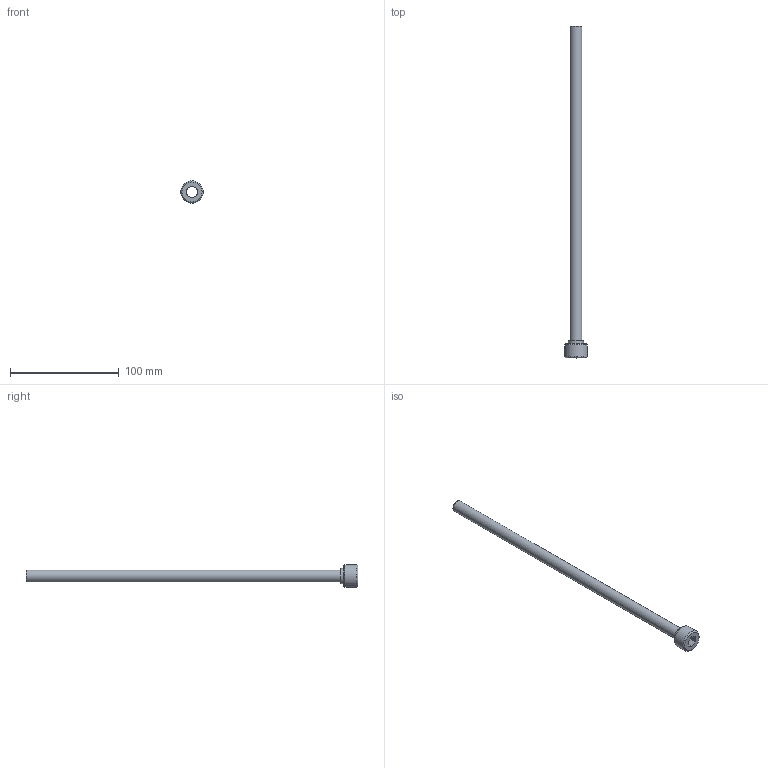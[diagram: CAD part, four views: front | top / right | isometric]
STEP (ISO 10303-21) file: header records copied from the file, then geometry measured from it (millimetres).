
FILE_DESCRIPTION(/* description */ (''),/* implementation_level */ '2;1');
FILE_NAME(/* name */ 'C:/Users/drich/Desktop/PT12-437-12 v1.step',/* time_stamp */ '2019-12-27T14:55:45-06:00',/* author */ (''),/* organization */ (''),/* preprocessor_version */ 'ST-DEVELOPER v18',/* originating_system */ 'Autodesk Translation Framework v8.12.0.6',/* authorisation */ '');
FILE_SCHEMA (('AUTOMOTIVE_DESIGN { 1 0 10303 214 3 1 1 }'));
Length unit declared in the file: inch
Products named in the file (1): PT12-437-12
Bounding box: 20.81 x 304.8 x 20.81 mm (x, y, z)
Volume: 7160.9 mm3; surface area: 20919.5 mm2
Topology: 1 solids, 1 shells, 30 faces, 71 edges, 45 vertices
Faces by surface type: plane 22, cylinder 4, torus 2, cone 2
Full cylindrical faces by diameter (mm): 10.084 x1, 10.846 x1, 13.868 x1, 20.813 x1
Entity records: 913 total; most frequent: DIRECTION 168, CARTESIAN_POINT 147, ORIENTED_EDGE 142, EDGE_CURVE 71, AXIS2_PLACEMENT_3D 66, VERTEX_POINT 45, LINE 36, VECTOR 36
